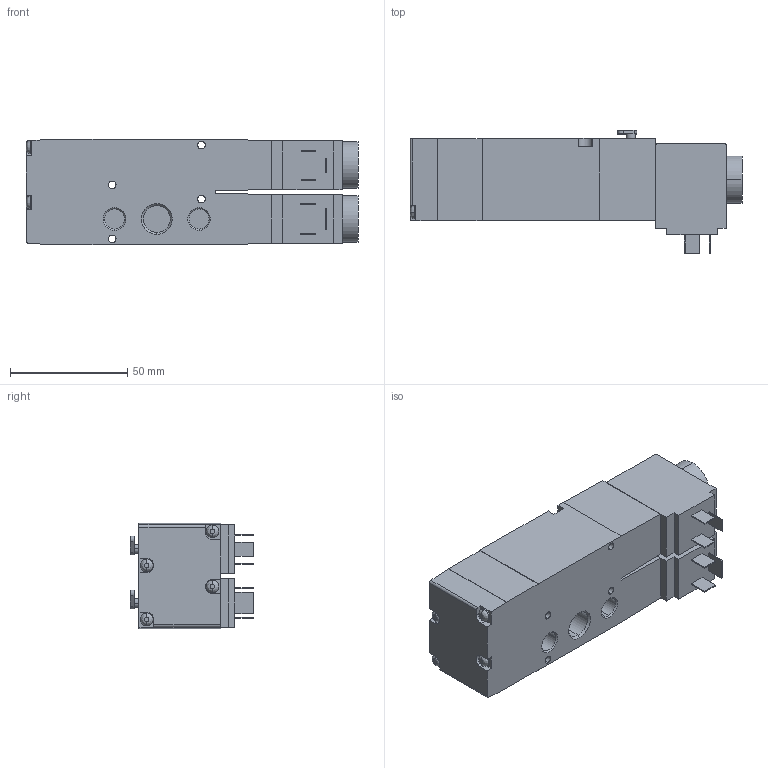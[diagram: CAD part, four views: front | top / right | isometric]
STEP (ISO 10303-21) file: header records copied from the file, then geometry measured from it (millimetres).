
FILE_DESCRIPTION (( 'STEP AP203' ), '1' );
FILE_NAME ('VB5322O-5D-02.STEP', '2021-11-26T10:47:21', ( '' ), ( '' ), 'SwSTEP 2.0', 'SolidWorks 2019', '' );
FILE_SCHEMA (( 'CONFIG_CONTROL_DESIGN' ));
Length unit declared in the file: millimetre
Products named in the file (1): VB5322O-5D-02
Bounding box: 141.4 x 52.4 x 45 mm (x, y, z)
Volume: 208526.8 mm3; surface area: 34010.8 mm2
Topology: 1 solids, 1 shells, 198 faces, 481 edges, 308 vertices
Faces by surface type: plane 113, cylinder 57, cone 20, bspline 8
Entity records: 6040 total; most frequent: CARTESIAN_POINT 1228, DIRECTION 997, ORIENTED_EDGE 962, EDGE_CURVE 481, AXIS2_PLACEMENT_3D 333, VECTOR 331, LINE 331, VERTEX_POINT 308
